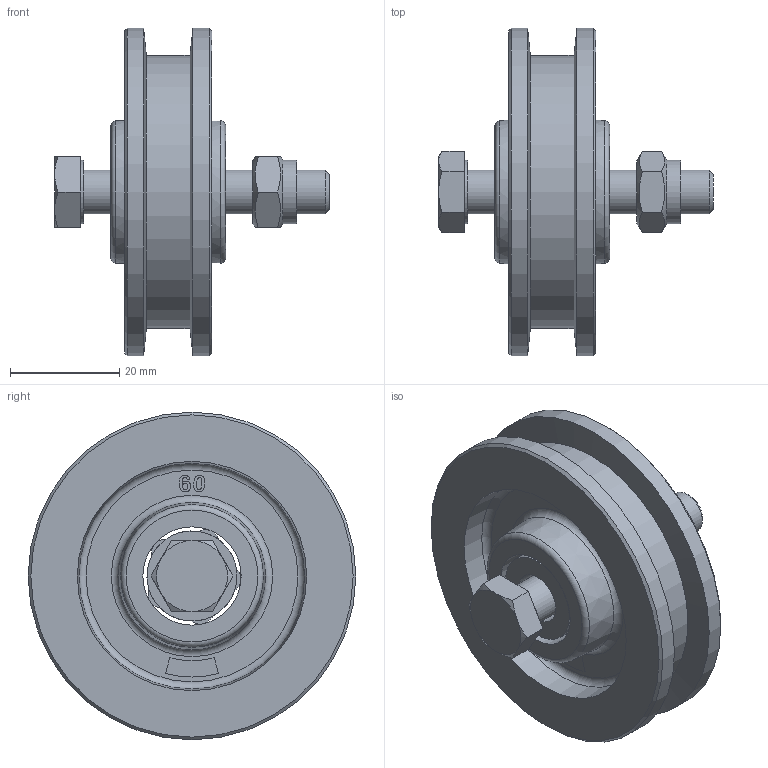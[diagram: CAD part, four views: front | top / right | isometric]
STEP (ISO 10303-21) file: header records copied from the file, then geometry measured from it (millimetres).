
FILE_DESCRIPTION(/* description */ ('Schiebetorrolle lose Ø60'),/* implementation_level */ '2;1');
FILE_NAME(/* name */ 'C:\Temp\AG_VJobSTP\010330418.iam.stp',/* time_stamp */ '2022-09-02T09:50:55+02:00',/* author */ ('O. Loukota'),/* organization */ (''),/* preprocessor_version */ 'ST-DEVELOPER v18.1',/* originating_system */ 'Autodesk Inventor 2021',/* authorisation */ '');
FILE_SCHEMA (('AUTOMOTIVE_DESIGN { 1 0 10303 214 3 1 1 }'));
Length unit declared in the file: millimetre
Products named in the file (8): 010330418; 337000110; DIN 931-1 - M8 x 45; DIN EN ISO 7040 - M8; 010330418_01; 337000300; 337000301; 337000302
Assembly tree (11 placements, depth 3):
  010330418
    337000110
    DIN 931-1 - M8 x 45
    DIN EN ISO 7040 - M8
    010330418_01
      337000300
      337000301
      337000302  x5
Bounding box: 50.3 x 60 x 60 mm (x, y, z)
Volume: 33207.9 mm3; surface area: 18776.1 mm2
Topology: 10 solids, 10 shells, 160 faces, 350 edges, 225 vertices
Faces by surface type: plane 59, cylinder 39, cone 29, bspline 27, torus 6
Full cylindrical faces by diameter (mm): 2 x10, 5 x5, 6.647 x1, 8 x1, 9.5 x2, 11.6 x2, 16.5 x2, 18 x1, 50 x1, 60 x2
Entity records: 4743 total; most frequent: CARTESIAN_POINT 1165, DIRECTION 681, ORIENTED_EDGE 676, EDGE_CURVE 338, AXIS2_PLACEMENT_3D 281, VERTEX_POINT 217, EDGE_LOOP 181, FACE_OUTER_BOUND 148
